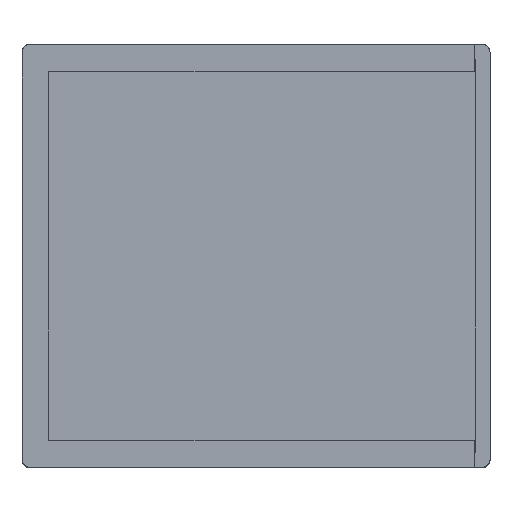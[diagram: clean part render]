
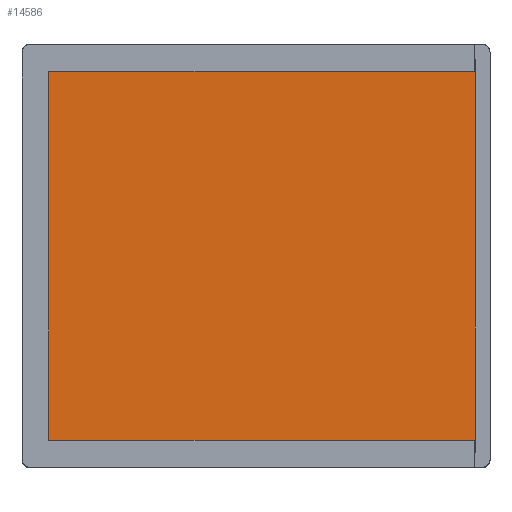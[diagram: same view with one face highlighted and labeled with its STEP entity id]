
A CAD part, top view. The second image highlights one B-rep face of the part: STEP entity #14586.
In plain terms, the highlighted free-form (B-spline) face has degree [1, 1] with [2, 2] control points.
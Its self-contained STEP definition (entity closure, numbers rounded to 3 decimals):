
#3870 = B_SPLINE_SURFACE_WITH_KNOTS('',1,1,(
    (#3871,#3872)
    ,(#3873,#3874
    )),.UNSPECIFIED.,.F.,.F.,.F.,(2,2),(2,2),(0.,2076.26),(
    -897.638,0.),.PIECEWISE_BEZIER_KNOTS.);
#3871 = CARTESIAN_POINT('',(-0.881,52.095,
    24.8));
#3872 = CARTESIAN_POINT('',(-0.881,52.095,
    2.));
#3873 = CARTESIAN_POINT('',(-0.881,-0.642,
    24.8));
#3874 = CARTESIAN_POINT('',(-0.881,-0.642,
    2.));
#10068 = EDGE_CURVE('',#10069,#10071,#10073,.T.);
#10069 = VERTEX_POINT('',#10070);
#10070 = CARTESIAN_POINT('',(-0.881,52.095,
    2.));
#10071 = VERTEX_POINT('',#10072);
#10072 = CARTESIAN_POINT('',(-0.881,-0.642,
    2.));
#10073 = SURFACE_CURVE('',#10074,(#10077,#10083),.PCURVE_S1.);
#10074 = B_SPLINE_CURVE_WITH_KNOTS('',1,(#10075,#10076),.UNSPECIFIED.,
  .F.,.F.,(2,2),(0.,2076.26),.PIECEWISE_BEZIER_KNOTS.);
#10075 = CARTESIAN_POINT('',(-0.881,52.095,
    2.));
#10076 = CARTESIAN_POINT('',(-0.881,-0.642,
    2.));
#10077 = PCURVE('',#3870,#10078);
#10078 = DEFINITIONAL_REPRESENTATION('',(#10079),#10082);
#10079 = B_SPLINE_CURVE_WITH_KNOTS('',1,(#10080,#10081),.UNSPECIFIED.,
  .F.,.F.,(2,2),(0.,2076.26),.PIECEWISE_BEZIER_KNOTS.);
#10080 = CARTESIAN_POINT('',(0.,0.));
#10081 = CARTESIAN_POINT('',(2076.26,0.));
#10082 = ( GEOMETRIC_REPRESENTATION_CONTEXT(2) 
PARAMETRIC_REPRESENTATION_CONTEXT() REPRESENTATION_CONTEXT('2D SPACE',''
  ) );
#10083 = PCURVE('',#10084,#10089);
#10084 = B_SPLINE_SURFACE_WITH_KNOTS('',1,1,(
    (#10085,#10086)
    ,(#10087,#10088
    )),.UNSPECIFIED.,.F.,.F.,.F.,(2,2),(2,2),(-1158.13,
    1158.13),(-1038.13,1038.13),
  .PIECEWISE_BEZIER_KNOTS.);
#10085 = CARTESIAN_POINT('',(-0.881,-0.642,
    2.));
#10086 = CARTESIAN_POINT('',(-0.881,52.095,
    2.));
#10087 = CARTESIAN_POINT('',(57.952,-0.642,
    2.));
#10088 = CARTESIAN_POINT('',(57.952,52.095,
    2.));
#10089 = DEFINITIONAL_REPRESENTATION('',(#10090),#10093);
#10090 = B_SPLINE_CURVE_WITH_KNOTS('',1,(#10091,#10092),.UNSPECIFIED.,
  .F.,.F.,(2,2),(0.,2076.26),.PIECEWISE_BEZIER_KNOTS.);
#10091 = CARTESIAN_POINT('',(-1158.13,1038.13));
#10092 = CARTESIAN_POINT('',(-1158.13,-1038.13));
#10093 = ( GEOMETRIC_REPRESENTATION_CONTEXT(2) 
PARAMETRIC_REPRESENTATION_CONTEXT() REPRESENTATION_CONTEXT('2D SPACE',''
  ) );
#10109 = B_SPLINE_SURFACE_WITH_KNOTS('',1,1,(
    (#10110,#10111)
    ,(#10112,#10113
    )),.UNSPECIFIED.,.F.,.F.,.F.,(2,2),(2,2),(0.,2316.26),(
    -956.693,0.),.PIECEWISE_BEZIER_KNOTS.);
#10110 = CARTESIAN_POINT('',(57.952,52.095,
    26.3));
#10111 = CARTESIAN_POINT('',(57.952,52.095,
    2.));
#10112 = CARTESIAN_POINT('',(-0.881,52.095,
    26.3));
#10113 = CARTESIAN_POINT('',(-0.881,52.095,
    2.));
#10157 = B_SPLINE_SURFACE_WITH_KNOTS('',1,1,(
    (#10158,#10159)
    ,(#10160,#10161
    )),.UNSPECIFIED.,.F.,.F.,.F.,(2,2),(2,2),(0.,2316.26),(
    -956.693,0.),.PIECEWISE_BEZIER_KNOTS.);
#10158 = CARTESIAN_POINT('',(-0.881,-0.642,
    26.3));
#10159 = CARTESIAN_POINT('',(-0.881,-0.642,
    2.));
#10160 = CARTESIAN_POINT('',(57.952,-0.642,
    26.3));
#10161 = CARTESIAN_POINT('',(57.952,-0.642,
    2.));
#10286 = B_SPLINE_SURFACE_WITH_KNOTS('',1,1,(
    (#10287,#10288)
    ,(#10289,#10290
    )),.UNSPECIFIED.,.F.,.F.,.F.,(2,2),(2,2),(0.,2076.26),(
    -956.693,0.),.PIECEWISE_BEZIER_KNOTS.);
#10287 = CARTESIAN_POINT('',(57.952,-0.642,
    26.3));
#10288 = CARTESIAN_POINT('',(57.952,-0.642,
    2.));
#10289 = CARTESIAN_POINT('',(57.952,52.095,
    26.3));
#10290 = CARTESIAN_POINT('',(57.952,52.095,
    2.));
#14586 = ADVANCED_FACE('',(#14587),#10084,.T.);
#14587 = FACE_BOUND('',#14588,.T.);
#14588 = EDGE_LOOP('',(#14589,#14590,#14610,#14630));
#14589 = ORIENTED_EDGE('',*,*,#10068,.T.);
#14590 = ORIENTED_EDGE('',*,*,#14591,.T.);
#14591 = EDGE_CURVE('',#10071,#14592,#14594,.T.);
#14592 = VERTEX_POINT('',#14593);
#14593 = CARTESIAN_POINT('',(57.952,-0.642,
    2.));
#14594 = SURFACE_CURVE('',#14595,(#14598,#14604),.PCURVE_S1.);
#14595 = B_SPLINE_CURVE_WITH_KNOTS('',1,(#14596,#14597),.UNSPECIFIED.,
  .F.,.F.,(2,2),(0.,2316.26),.PIECEWISE_BEZIER_KNOTS.);
#14596 = CARTESIAN_POINT('',(-0.881,-0.642,
    2.));
#14597 = CARTESIAN_POINT('',(57.952,-0.642,
    2.));
#14598 = PCURVE('',#10084,#14599);
#14599 = DEFINITIONAL_REPRESENTATION('',(#14600),#14603);
#14600 = B_SPLINE_CURVE_WITH_KNOTS('',1,(#14601,#14602),.UNSPECIFIED.,
  .F.,.F.,(2,2),(0.,2316.26),.PIECEWISE_BEZIER_KNOTS.);
#14601 = CARTESIAN_POINT('',(-1158.13,-1038.13));
#14602 = CARTESIAN_POINT('',(1158.13,-1038.13));
#14603 = ( GEOMETRIC_REPRESENTATION_CONTEXT(2) 
PARAMETRIC_REPRESENTATION_CONTEXT() REPRESENTATION_CONTEXT('2D SPACE',''
  ) );
#14604 = PCURVE('',#10157,#14605);
#14605 = DEFINITIONAL_REPRESENTATION('',(#14606),#14609);
#14606 = B_SPLINE_CURVE_WITH_KNOTS('',1,(#14607,#14608),.UNSPECIFIED.,
  .F.,.F.,(2,2),(0.,2316.26),.PIECEWISE_BEZIER_KNOTS.);
#14607 = CARTESIAN_POINT('',(0.,0.));
#14608 = CARTESIAN_POINT('',(2316.26,0.));
#14609 = ( GEOMETRIC_REPRESENTATION_CONTEXT(2) 
PARAMETRIC_REPRESENTATION_CONTEXT() REPRESENTATION_CONTEXT('2D SPACE',''
  ) );
#14610 = ORIENTED_EDGE('',*,*,#14611,.T.);
#14611 = EDGE_CURVE('',#14592,#14612,#14614,.T.);
#14612 = VERTEX_POINT('',#14613);
#14613 = CARTESIAN_POINT('',(57.952,52.095,
    2.));
#14614 = SURFACE_CURVE('',#14615,(#14618,#14624),.PCURVE_S1.);
#14615 = B_SPLINE_CURVE_WITH_KNOTS('',1,(#14616,#14617),.UNSPECIFIED.,
  .F.,.F.,(2,2),(0.,2076.26),.PIECEWISE_BEZIER_KNOTS.);
#14616 = CARTESIAN_POINT('',(57.952,-0.642,
    2.));
#14617 = CARTESIAN_POINT('',(57.952,52.095,
    2.));
#14618 = PCURVE('',#10084,#14619);
#14619 = DEFINITIONAL_REPRESENTATION('',(#14620),#14623);
#14620 = B_SPLINE_CURVE_WITH_KNOTS('',1,(#14621,#14622),.UNSPECIFIED.,
  .F.,.F.,(2,2),(0.,2076.26),.PIECEWISE_BEZIER_KNOTS.);
#14621 = CARTESIAN_POINT('',(1158.13,-1038.13));
#14622 = CARTESIAN_POINT('',(1158.13,1038.13));
#14623 = ( GEOMETRIC_REPRESENTATION_CONTEXT(2) 
PARAMETRIC_REPRESENTATION_CONTEXT() REPRESENTATION_CONTEXT('2D SPACE',''
  ) );
#14624 = PCURVE('',#10286,#14625);
#14625 = DEFINITIONAL_REPRESENTATION('',(#14626),#14629);
#14626 = B_SPLINE_CURVE_WITH_KNOTS('',1,(#14627,#14628),.UNSPECIFIED.,
  .F.,.F.,(2,2),(0.,2076.26),.PIECEWISE_BEZIER_KNOTS.);
#14627 = CARTESIAN_POINT('',(0.,0.));
#14628 = CARTESIAN_POINT('',(2076.26,0.));
#14629 = ( GEOMETRIC_REPRESENTATION_CONTEXT(2) 
PARAMETRIC_REPRESENTATION_CONTEXT() REPRESENTATION_CONTEXT('2D SPACE',''
  ) );
#14630 = ORIENTED_EDGE('',*,*,#14631,.T.);
#14631 = EDGE_CURVE('',#14612,#10069,#14632,.T.);
#14632 = SURFACE_CURVE('',#14633,(#14636,#14642),.PCURVE_S1.);
#14633 = B_SPLINE_CURVE_WITH_KNOTS('',1,(#14634,#14635),.UNSPECIFIED.,
  .F.,.F.,(2,2),(0.,2316.26),.PIECEWISE_BEZIER_KNOTS.);
#14634 = CARTESIAN_POINT('',(57.952,52.095,
    2.));
#14635 = CARTESIAN_POINT('',(-0.881,52.095,
    2.));
#14636 = PCURVE('',#10084,#14637);
#14637 = DEFINITIONAL_REPRESENTATION('',(#14638),#14641);
#14638 = B_SPLINE_CURVE_WITH_KNOTS('',1,(#14639,#14640),.UNSPECIFIED.,
  .F.,.F.,(2,2),(0.,2316.26),.PIECEWISE_BEZIER_KNOTS.);
#14639 = CARTESIAN_POINT('',(1158.13,1038.13));
#14640 = CARTESIAN_POINT('',(-1158.13,1038.13));
#14641 = ( GEOMETRIC_REPRESENTATION_CONTEXT(2) 
PARAMETRIC_REPRESENTATION_CONTEXT() REPRESENTATION_CONTEXT('2D SPACE',''
  ) );
#14642 = PCURVE('',#10109,#14643);
#14643 = DEFINITIONAL_REPRESENTATION('',(#14644),#14647);
#14644 = B_SPLINE_CURVE_WITH_KNOTS('',1,(#14645,#14646),.UNSPECIFIED.,
  .F.,.F.,(2,2),(0.,2316.26),.PIECEWISE_BEZIER_KNOTS.);
#14645 = CARTESIAN_POINT('',(0.,0.));
#14646 = CARTESIAN_POINT('',(2316.26,0.));
#14647 = ( GEOMETRIC_REPRESENTATION_CONTEXT(2) 
PARAMETRIC_REPRESENTATION_CONTEXT() REPRESENTATION_CONTEXT('2D SPACE',''
  ) );
